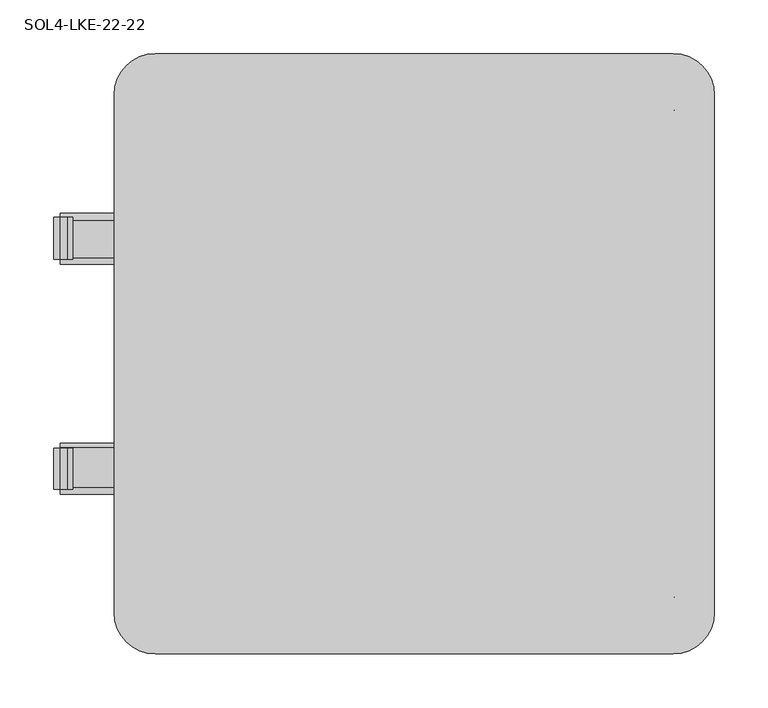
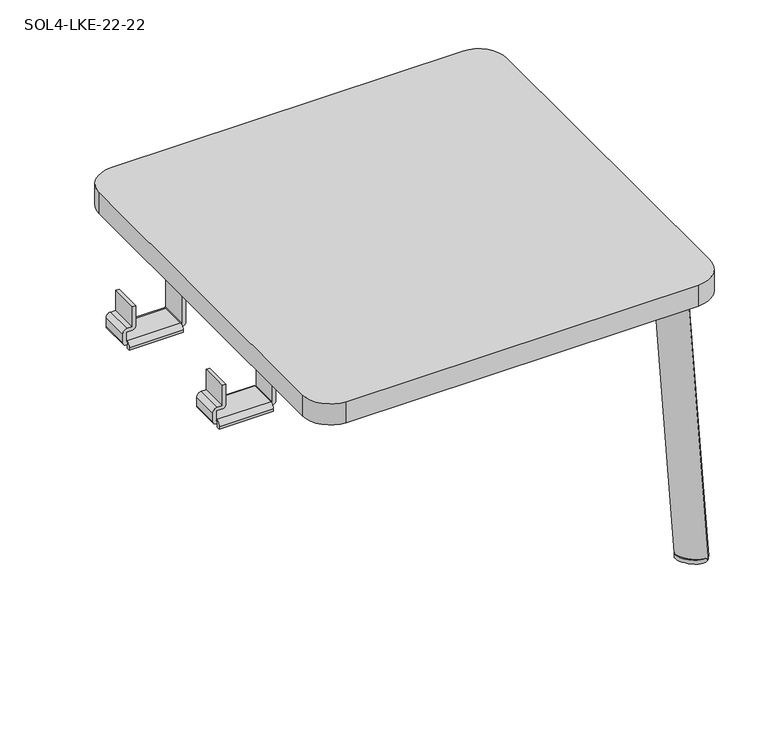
"""IFC4 building model written with IfcOpenShell, lengths in millimetres: furniture geometry, Krug-Solis-End_Table : SOL4-LKE-22-22."""

from ifc_helpers import new_model, si_unit, point, frame, frame_2d, origin, place, context, project, spatial, polyline, circle_curve, ellipse_curve, trimmed, segment, composite_curve, outline, extrude, source, transform, mapped, element, save
from ifc_brep_helpers import plane_surface, revolved_surface, extruded_surface, advanced_brep


def sol4_lke_22_22_c15cc27e(model_context):
    return source(origin(), model_context, "Body", "SolidModel", [
        advanced_brep(
        [(185.7392299, 386.8104911, 5.7275174), (214.9431985, 416.0144598, 5.7275174), (185.7392299, 386.8104911, 0.0), (214.9431985, 416.0144598, 0.0)],
        [
            (0, 1, ellipse_curve(frame((200.3412142, 401.4124754, 5.7275174), z_axis=(0.0, 0.0, 1.0000000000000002), x_axis=(0.7071067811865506, 0.7071067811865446, 0.0)), 20.6503243, 12.7)),
            (1, 0, ellipse_curve(frame((200.3412142, 401.4124754, 5.7275174), z_axis=(0.0, 0.0, 1.0000000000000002), x_axis=(0.7071067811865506, 0.7071067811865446, 0.0)), 20.6503243, 12.7)),
            (2, 3, ellipse_curve(frame((200.3412142, 401.4124754, 0.0), z_axis=(0.0, 0.0, -1.0000000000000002), x_axis=(0.7071067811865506, 0.7071067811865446, 0.0)), 20.6503243, 12.7)),
            (3, 2, ellipse_curve(frame((200.3412142, 401.4124754, 0.0), z_axis=(0.0, 0.0, -1.0000000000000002), x_axis=(0.7071067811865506, 0.7071067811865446, 0.0)), 20.6503243, 12.7)),
            (1, 3),
            (2, 0),
        ],
        [
            plane_surface(frame((214.9431985, 416.0144598, 5.7275174), z_axis=(0.0, 0.0, 1.0000000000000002), x_axis=(-0.7071067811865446, 0.7071067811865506, 0.0))),
            plane_surface(frame((214.9431985, 416.0144598, 0.0), z_axis=(0.0, 0.0, -1.0000000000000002), x_axis=(0.7071067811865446, -0.7071067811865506, 0.0))),
            extruded_surface(trimmed(ellipse_curve(frame((200.3412142, 401.4124754, -5.7275174), z_axis=(0.0, 0.0, 1.0000000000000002), x_axis=(0.7071067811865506, 0.7071067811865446, 0.0)), 20.6503243, 12.7), [point((214.9431985, 416.0144598, -5.7275174))], [point((185.7392299, 386.8104911, -5.7275174))], True, "CARTESIAN"), (0.0, 0.0, 5.7275174), 5.7275174),
            extruded_surface(trimmed(ellipse_curve(frame((200.3412142, 401.4124754, -5.7275174), z_axis=(0.0, 0.0, 1.0000000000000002), x_axis=(0.7071067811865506, 0.7071067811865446, 0.0)), 20.6503243, 12.7), [point((185.7392299, 386.8104911, -5.7275174))], [point((214.9431985, 416.0144598, -5.7275174))], True, "CARTESIAN"), (0.0, 0.0, 5.7275174), 5.7275174),
        ],
        [
            (0, [[1, 2]]),
            (1, [[3, 4]]),
            (2, [[-2, 5, -3, 6]]),
            (3, [[-1, -6, -4, -5]]),
        ],
    ),
        extrude(outline(composite_curve([segment(trimmed(circle_curve(frame_2d((152.3453876, 353.4166488)), 12.7), [point((152.3453876, 340.7166488))], [point((139.6453876, 353.4166488))], False, "CARTESIAN"), True, "CONTINUOUS"), segment(polyline([(139.6453876, 353.4166488), (139.6453876, 404.0166488)]), True, "CONTINUOUS"), segment(trimmed(circle_curve(frame_2d((152.3453876, 404.0166488)), 12.7), [point((139.6453876, 404.0166488))], [point((152.3453876, 416.7166488))], False, "CARTESIAN"), True, "CONTINUOUS"), segment(polyline([(152.3453876, 416.7166488), (190.2453876, 416.7166488)]), True, "CONTINUOUS"), segment(trimmed(circle_curve(frame_2d((190.2453876, 391.3166488)), 25.4), [point((190.2453876, 416.7166488))], [point((215.6453876, 391.3166488))], False, "CARTESIAN"), True, "CONTINUOUS"), segment(polyline([(215.6453876, 391.3166488), (215.6453876, 353.4166488)]), True, "CONTINUOUS"), segment(trimmed(circle_curve(frame_2d((202.9453876, 353.4166488)), 12.7), [point((215.6453876, 353.4166488))], [point((202.9453876, 340.7166488))], False, "CARTESIAN"), True, "CONTINUOUS"), segment(polyline([(202.9453876, 340.7166488), (152.3453876, 340.7166488)]), True, "CONTINUOUS")], self_intersect=False)), frame((0.0, 0.0, 381.9661838), z_axis=(0.0, 0.0, 1.0), x_axis=(1.0, 0.0, 0.0)), (0.0, 0.0, 1.0), 4.1138162),
        advanced_brep(
        [(197.2601224, 398.2991166, 388.9312757), (167.8869832, 368.9905115, 383.2287243), (215.4522467, 416.4912409, 4.7338329), (185.8034434, 386.9069717, 4.8530024)],
        [
            (0, 1, ellipse_curve(frame((182.5735528, 383.644814, 386.08), z_axis=(-0.09627270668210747, -0.09627270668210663, 0.9906882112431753), x_axis=(-0.701292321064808, -0.6997515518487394, -0.13615008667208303)), 20.9421508, 11.4593239)),
            (1, 0, ellipse_curve(frame((182.5735528, 383.644814, 386.08), z_axis=(-0.09627270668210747, -0.09627270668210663, 0.9906882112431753), x_axis=(-0.701292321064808, -0.6997515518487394, -0.13615008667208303)), 20.9421508, 11.4593239)),
            (2, 3, ellipse_curve(frame((200.6278451, 401.6991063, 4.7934177), z_axis=(-0.0020118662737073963, -0.0020118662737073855, -0.9999959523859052), x_axis=(-0.70787388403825, -0.7063331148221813, 0.002845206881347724)), 20.9421508, 11.4593239)),
            (3, 2, ellipse_curve(frame((200.6278451, 401.6991063, 4.7934177), z_axis=(-0.0020118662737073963, -0.0020118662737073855, -0.9999959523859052), x_axis=(-0.70787388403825, -0.7063331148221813, 0.002845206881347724)), 20.9421508, 11.4593239)),
            (2, 0, circle_curve(frame((-1739.0553432, -1538.016349, 12.5982806), z_axis=(0.7071067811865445, -0.7071067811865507, 0.0), x_axis=(0.7005223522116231, 0.700522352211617, 0.1361501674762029)), 2764.1023295)),
            (1, 3, circle_curve(frame((-1739.0876102, -1537.984082, 12.5982806), z_axis=(-0.7071067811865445, 0.7071067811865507, 0.0), x_axis=(0.7005223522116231, 0.700522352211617, 0.1361501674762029)), 2722.2180526)),
        ],
        [
            plane_surface(frame((182.5735528, 383.644814, 386.08), z_axis=(-0.09627270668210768, -0.09627270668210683, 0.9906882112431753), x_axis=(-0.7071067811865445, 0.7071067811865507, 0.0))),
            plane_surface(frame((200.6278451, 401.6991063, 4.7934177), z_axis=(-0.002011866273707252, -0.0020118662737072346, -0.9999959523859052), x_axis=(-0.7071067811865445, 0.7071067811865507, 0.0))),
            revolved_surface(trimmed(ellipse_curve(frame((182.5735528, 383.644814, 386.08), z_axis=(-0.09627270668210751, -0.09627270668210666, 0.9906882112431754), x_axis=(-0.701292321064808, -0.6997515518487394, -0.13615008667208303)), 20.9421508, 11.4593239), [point((167.8869832, 368.9905115, 383.2287243))], [point((197.2601224, 398.2991166, 388.9312757))], True, "CARTESIAN"), (-1739.0714767, -1538.0002155, 12.5982806), (-0.7071067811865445, 0.7071067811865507, 0.0)),
            revolved_surface(trimmed(ellipse_curve(frame((182.5735528, 383.644814, 386.08), z_axis=(-0.09627270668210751, -0.09627270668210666, 0.9906882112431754), x_axis=(-0.701292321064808, -0.6997515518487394, -0.13615008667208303)), 20.9421508, 11.4593239), [point((197.2601224, 398.2991166, 388.9312757))], [point((167.8869832, 368.9905115, 383.2287243))], True, "CARTESIAN"), (-1739.0714767, -1538.0002155, 12.5982806), (-0.7071067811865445, 0.7071067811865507, 0.0)),
        ],
        [
            (0, [[1, 2]]),
            (1, [[3, 4]]),
            (2, [[5, -2, 6, -3]]),
            (3, [[-6, -1, -5, -4]]),
        ],
    ),
        advanced_brep(
        [(185.7392299, -82.3771935, 5.7275174), (214.9431985, -111.5811621, 5.7275174), (185.7392299, -82.3771935, 0.0), (214.9431985, -111.5811621, 0.0)],
        [
            (0, 1, ellipse_curve(frame((200.3412142, -96.9791778, 5.7275174), z_axis=(0.0, 0.0, 1.0000000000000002), x_axis=(0.7071067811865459, -0.7071067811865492, 0.0)), 20.6503243, 12.7)),
            (1, 0, ellipse_curve(frame((200.3412142, -96.9791778, 5.7275174), z_axis=(0.0, 0.0, 1.0000000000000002), x_axis=(0.7071067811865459, -0.7071067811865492, 0.0)), 20.6503243, 12.7)),
            (2, 3, ellipse_curve(frame((200.3412142, -96.9791778, 0.0), z_axis=(0.0, 0.0, -1.0000000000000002), x_axis=(0.7071067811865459, -0.7071067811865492, 0.0)), 20.6503243, 12.7)),
            (3, 2, ellipse_curve(frame((200.3412142, -96.9791778, 0.0), z_axis=(0.0, 0.0, -1.0000000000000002), x_axis=(0.7071067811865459, -0.7071067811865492, 0.0)), 20.6503243, 12.7)),
            (0, 2),
            (3, 1),
        ],
        [
            plane_surface(frame((214.9431985, -111.5811621, 5.7275174), z_axis=(0.0, 0.0, 1.0000000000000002), x_axis=(0.7071067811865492, 0.7071067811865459, 0.0))),
            plane_surface(frame((214.9431985, -111.5811621, 0.0), z_axis=(0.0, 0.0, -1.0000000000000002), x_axis=(-0.7071067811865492, -0.7071067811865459, 0.0))),
            extruded_surface(trimmed(ellipse_curve(frame((200.3412142, -96.9791778, -5.7275174), z_axis=(0.0, 0.0, 1.0000000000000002), x_axis=(0.7071067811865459, -0.7071067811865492, 0.0)), 20.6503243, 12.7), [point((185.7392299, -82.3771935, -5.7275174))], [point((214.9431985, -111.5811621, -5.7275174))], True, "CARTESIAN"), (0.0, 0.0, 5.7275174), 5.7275174),
            extruded_surface(trimmed(ellipse_curve(frame((200.3412142, -96.9791778, -5.7275174), z_axis=(0.0, 0.0, 1.0000000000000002), x_axis=(0.7071067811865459, -0.7071067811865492, 0.0)), 20.6503243, 12.7), [point((214.9431985, -111.5811621, -5.7275174))], [point((185.7392299, -82.3771935, -5.7275174))], True, "CARTESIAN"), (0.0, 0.0, 5.7275174), 5.7275174),
        ],
        [
            (0, [[1, 2]]),
            (1, [[3, 4]]),
            (2, [[-1, 5, -4, 6]]),
            (3, [[-2, -6, -3, -5]]),
        ],
    ),
        extrude(outline(composite_curve([segment(polyline([(152.3453876, -36.2833512), (202.9453876, -36.2833512)]), True, "CONTINUOUS"), segment(trimmed(circle_curve(frame_2d((202.9453876, -48.9833512)), 12.7), [point((202.9453876, -36.2833512))], [point((215.6453876, -48.9833512))], False, "CARTESIAN"), True, "CONTINUOUS"), segment(polyline([(215.6453876, -48.9833512), (215.6453876, -86.8833512)]), True, "CONTINUOUS"), segment(trimmed(circle_curve(frame_2d((190.2453876, -86.8833512)), 25.4), [point((215.6453876, -86.8833512))], [point((190.2453876, -112.2833512))], False, "CARTESIAN"), True, "CONTINUOUS"), segment(polyline([(190.2453876, -112.2833512), (152.3453876, -112.2833512)]), True, "CONTINUOUS"), segment(trimmed(circle_curve(frame_2d((152.3453876, -99.5833512)), 12.7), [point((152.3453876, -112.2833512))], [point((139.6453876, -99.5833512))], False, "CARTESIAN"), True, "CONTINUOUS"), segment(polyline([(139.6453876, -99.5833512), (139.6453876, -48.9833512)]), True, "CONTINUOUS"), segment(trimmed(circle_curve(frame_2d((152.3453876, -48.9833512)), 12.7), [point((139.6453876, -48.9833512))], [point((152.3453876, -36.2833512))], False, "CARTESIAN"), True, "CONTINUOUS")], self_intersect=False)), frame((0.0, 0.0, 381.9661838), z_axis=(0.0, 0.0, 1.0), x_axis=(1.0, 0.0, 0.0)), (0.0, 0.0, 1.0), 4.1138162),
        advanced_brep(
        [(197.2601224, -93.865819, 388.9312757), (167.8869832, -64.5572139, 383.2287243), (215.4522467, -112.0579433, 4.7338329), (185.8034434, -82.473674, 4.8530024)],
        [
            (0, 1, ellipse_curve(frame((182.5735528, -79.2115164, 386.08), z_axis=(-0.0962727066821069, 0.09627270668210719, 0.9906882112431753), x_axis=(-0.7012923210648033, 0.699751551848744, -0.13615008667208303)), 20.9421508, 11.4593239)),
            (1, 0, ellipse_curve(frame((182.5735528, -79.2115164, 386.08), z_axis=(-0.0962727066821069, 0.09627270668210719, 0.9906882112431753), x_axis=(-0.7012923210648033, 0.699751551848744, -0.13615008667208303)), 20.9421508, 11.4593239)),
            (2, 3, ellipse_curve(frame((200.6278451, -97.2658087, 4.7934177), z_axis=(-0.0020118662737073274, 0.002011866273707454, -0.9999959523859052), x_axis=(-0.7078738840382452, 0.7063331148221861, 0.002845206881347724)), 20.9421508, 11.4593239)),
            (3, 2, ellipse_curve(frame((200.6278451, -97.2658087, 4.7934177), z_axis=(-0.0020118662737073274, 0.002011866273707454, -0.9999959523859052), x_axis=(-0.7078738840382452, 0.7063331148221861, 0.002845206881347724)), 20.9421508, 11.4593239)),
            (3, 1, circle_curve(frame((-1739.0876102, 1842.4173796, 12.5982806), z_axis=(-0.7071067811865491, -0.707106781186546, 0.0), x_axis=(0.7005223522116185, -0.7005223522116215, 0.1361501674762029)), 2722.2180526)),
            (0, 2, circle_curve(frame((-1739.0553432, 1842.4496466, 12.5982806), z_axis=(0.7071067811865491, 0.707106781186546, 0.0), x_axis=(0.7005223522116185, -0.7005223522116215, 0.1361501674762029)), 2764.1023295)),
        ],
        [
            plane_surface(frame((182.5735528, -79.2115164, 386.08), z_axis=(-0.09627270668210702, 0.09627270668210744, 0.9906882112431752), x_axis=(-0.7071067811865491, -0.707106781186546, 0.0))),
            plane_surface(frame((200.6278451, -97.2658087, 4.7934177), z_axis=(-0.0020118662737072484, 0.0020118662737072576, -0.9999959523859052), x_axis=(-0.7071067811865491, -0.707106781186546, 0.0))),
            revolved_surface(trimmed(ellipse_curve(frame((182.5735528, -79.2115164, 386.08), z_axis=(-0.09627270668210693, 0.09627270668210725, 0.9906882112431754), x_axis=(-0.7012923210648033, 0.699751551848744, -0.13615008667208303)), 20.9421508, 11.4593239), [point((197.2601224, -93.865819, 388.9312757))], [point((167.8869832, -64.5572139, 383.2287243))], True, "CARTESIAN"), (-1739.0714767, 1842.4335131, 12.5982806), (0.7071067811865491, 0.707106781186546, 0.0)),
            revolved_surface(trimmed(ellipse_curve(frame((182.5735528, -79.2115164, 386.08), z_axis=(-0.09627270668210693, 0.09627270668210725, 0.9906882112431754), x_axis=(-0.7012923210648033, 0.699751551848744, -0.13615008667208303)), 20.9421508, 11.4593239), [point((167.8869832, -64.5572139, 383.2287243))], [point((197.2601224, -93.865819, 388.9312757))], True, "CARTESIAN"), (-1739.0714767, 1842.4335131, 12.5982806), (0.7071067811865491, 0.707106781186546, 0.0)),
        ],
        [
            (0, [[1, 2]]),
            (1, [[3, 4]]),
            (2, [[5, -1, 6, -4]]),
            (3, [[-6, -2, -5, -3]]),
        ],
    ),
        extrude(outline(composite_curve([segment(trimmed(circle_curve(frame_2d((-290.2546124, 393.6166488)), 38.1), [point((-328.3546124, 393.6166488))], [point((-290.2546124, 431.7166488))], False, "CARTESIAN"), True, "CONTINUOUS"), segment(polyline([(-290.2546124, 431.7166488), (192.5453876, 431.7166488)]), True, "CONTINUOUS"), segment(trimmed(circle_curve(frame_2d((192.5453876, 393.6166488)), 38.1), [point((192.5453876, 431.7166488))], [point((230.6453876, 393.6166488))], False, "CARTESIAN"), True, "CONTINUOUS"), segment(polyline([(230.6453876, 393.6166488), (230.6453876, -89.1833512)]), True, "CONTINUOUS"), segment(trimmed(circle_curve(frame_2d((192.5453876, -89.1833512)), 38.1), [point((230.6453876, -89.1833512))], [point((192.5453876, -127.2833512))], False, "CARTESIAN"), True, "CONTINUOUS"), segment(polyline([(192.5453876, -127.2833512), (-290.2546124, -127.2833512)]), True, "CONTINUOUS"), segment(trimmed(circle_curve(frame_2d((-290.2546124, -89.1833512)), 38.1), [point((-290.2546124, -127.2833512))], [point((-328.3546124, -89.1833512))], False, "CARTESIAN"), True, "CONTINUOUS"), segment(polyline([(-328.3546124, -89.1833512), (-328.3546124, 393.6166488)]), True, "CONTINUOUS")], self_intersect=False)), frame((0.0, 0.0, 386.08), z_axis=(0.0, 0.0, 1.0), x_axis=(1.0, 0.0, 0.0)), (0.0, 0.0, 1.0), 30.48),
        extrude(outline(composite_curve([segment(polyline([(330.5710981, -371.6990738), (330.5710981, -378.4365929)]), True, "CONTINUOUS"), segment(trimmed(circle_curve(frame_2d((324.308617, -378.4365929)), 6.2624811), [point((330.5710981, -378.4365929))], [point((324.308617, -384.699074))], False, "CARTESIAN"), True, "CONTINUOUS"), segment(polyline([(324.308617, -384.699074), (311.9831705, -384.699074)]), True, "CONTINUOUS"), segment(trimmed(circle_curve(frame_2d((311.9831705, -379.9365737)), 4.7625003), [point((311.9831705, -384.699074))], [point((307.2206702, -379.9365737))], False, "CARTESIAN"), True, "CONTINUOUS"), segment(polyline([(307.2206702, -379.9365737), (307.2206702, -378.4365746), (311.8086169, -378.4365746), (311.8086169, -379.9365737), (325.8085981, -379.9365737), (325.8085981, -371.6990738)]), True, "CONTINUOUS"), segment(trimmed(circle_curve(frame_2d((330.5710984, -371.6990738)), 4.7625003), [point((325.8085981, -371.6990738))], [point((330.5710984, -366.9365734))], False, "CARTESIAN"), True, "CONTINUOUS"), segment(polyline([(330.5710984, -366.9365734), (359.808594, -366.9365734), (359.808594, -371.6990738), (330.5710981, -371.6990738)]), True, "CONTINUOUS")], self_intersect=False)), frame((0.0, 240.1666539, 0.0), z_axis=(0.0, 1.0, 0.0), x_axis=(0.0, 0.0, 1.0)), (0.0, 0.0, 1.0), 39.3474212),
        extrude(outline(composite_curve([segment(polyline([(311.9831625, -298.1740821), (381.9661838, -298.1740821), (381.9661838, -259.3540732), (386.08, -259.3540732), (386.08, -302.9365744), (311.8086169, -302.9365744), (311.8086169, -304.4365732), (307.2206702, -304.4365732), (307.2206702, -302.9365744)]), True, "CONTINUOUS"), segment(trimmed(circle_curve(frame_2d((311.9831625, -302.9365744)), 4.7624923), [point((307.2206702, -302.9365744))], [point((311.9831625, -298.1740821))], False, "CARTESIAN"), True, "CONTINUOUS")], self_intersect=False)), frame((0.0, 240.1666539, 0.0), z_axis=(0.0, 1.0, 0.0), x_axis=(0.0, 0.0, 1.0)), (0.0, 0.0, 1.0), 39.3474212),
        extrude(outline(composite_curve([segment(polyline([(26.1666492, 322.8298588), (26.1666492, 317.4177981), (21.4041494, 317.4177981), (21.4041494, 321.0678055)]), True, "CONTINUOUS"), segment(trimmed(circle_curve(frame_2d((27.7541494, 321.0678055)), 6.35), [point((21.4041494, 321.0678055))], [point((27.7541494, 327.4178055))], False, "CARTESIAN"), True, "CONTINUOUS"), segment(polyline([(27.7541494, 327.4178055), (65.196213, 327.4178055)]), True, "CONTINUOUS"), segment(trimmed(circle_curve(frame_2d((65.196213, 323.5848692)), 3.8329363), [point((65.196213, 327.4178055))], [point((69.0291494, 323.5848692))], False, "CARTESIAN"), True, "CONTINUOUS"), segment(polyline([(69.0291494, 323.5848692), (69.0291494, 317.4177981), (64.2666487, 317.4177981), (64.2666487, 322.8298588), (26.1666492, 322.8298588)]), True, "CONTINUOUS")], self_intersect=False)), frame((-378.4365746, 0.0, 0.0), z_axis=(1.0, 0.0, 0.0), x_axis=(0.0, 1.0, 0.0)), (0.0, 0.0, 1.0), 74.0000014),
        extrude(outline(composite_curve([segment(polyline([(240.1666542, 307.2206702), (240.1666542, 301.8086095), (235.4041544, 301.8086095), (235.4041544, 305.4586169)]), True, "CONTINUOUS"), segment(trimmed(circle_curve(frame_2d((241.7541544, 305.4586169)), 6.35), [point((235.4041544, 305.4586169))], [point((241.7541544, 311.8086169))], False, "CARTESIAN"), True, "CONTINUOUS"), segment(polyline([(241.7541544, 311.8086169), (276.6791544, 311.8086169)]), True, "CONTINUOUS"), segment(trimmed(circle_curve(frame_2d((276.6791544, 305.4586169)), 6.35), [point((276.6791544, 311.8086169))], [point((283.0291544, 305.4586169))], False, "CARTESIAN"), True, "CONTINUOUS"), segment(polyline([(283.0291544, 305.4586169), (283.0291544, 301.8086095), (278.2666538, 301.8086095), (278.2666538, 307.2206702), (240.1666542, 307.2206702)]), True, "CONTINUOUS")], self_intersect=False)), frame((-378.4365746, 0.0, 0.0), z_axis=(1.0, 0.0, 0.0), x_axis=(0.0, 1.0, 0.0)), (0.0, 0.0, 1.0), 74.0000014),
        extrude(outline(composite_curve([segment(polyline([(346.1802867, -371.6990738), (346.1802867, -378.4365929)]), True, "CONTINUOUS"), segment(trimmed(circle_curve(frame_2d((339.9178056, -378.4365929)), 6.2624811), [point((346.1802867, -378.4365929))], [point((339.9178056, -384.699074))], False, "CARTESIAN"), True, "CONTINUOUS"), segment(polyline([(339.9178056, -384.699074), (327.5923591, -384.699074)]), True, "CONTINUOUS"), segment(trimmed(circle_curve(frame_2d((327.5923591, -379.9365737)), 4.7625003), [point((327.5923591, -384.699074))], [point((322.8298588, -379.9365737))], False, "CARTESIAN"), True, "CONTINUOUS"), segment(polyline([(322.8298588, -379.9365737), (322.8298588, -378.4365746), (327.4178055, -378.4365746), (327.4178055, -379.9365737), (341.4177867, -379.9365737), (341.4177867, -371.6990738)]), True, "CONTINUOUS"), segment(trimmed(circle_curve(frame_2d((346.180287, -371.6990738)), 4.7625003), [point((341.4177867, -371.6990738))], [point((346.180287, -366.9365734))], False, "CARTESIAN"), True, "CONTINUOUS"), segment(polyline([(346.180287, -366.9365734), (375.4177826, -366.9365734), (375.4177826, -371.6990738), (346.1802867, -371.6990738)]), True, "CONTINUOUS")], self_intersect=False)), frame((0.0, 26.1666489, 0.0), z_axis=(0.0, 1.0, 0.0), x_axis=(0.0, 0.0, 1.0)), (0.0, 0.0, 1.0), 38.0999998),
        extrude(outline(composite_curve([segment(polyline([(327.5923511, -298.1740821), (381.9661838, -298.1740821), (381.9661838, -259.3540732), (386.08, -259.3540732), (386.08, -302.9365744), (327.4178055, -302.9365744), (327.4178055, -304.4365732), (322.8298588, -304.4365732), (322.8298588, -302.9365744)]), True, "CONTINUOUS"), segment(trimmed(circle_curve(frame_2d((327.5923511, -302.9365744)), 4.7624923), [point((322.8298588, -302.9365744))], [point((327.5923511, -298.1740821))], False, "CARTESIAN"), True, "CONTINUOUS")], self_intersect=False)), frame((0.0, 26.1666489, 0.0), z_axis=(0.0, 1.0, 0.0), x_axis=(0.0, 0.0, 1.0)), (0.0, 0.0, 1.0), 38.0999998),
    ])


if __name__ == "__main__":
    model = new_model("IFC4")
    model_context = context("Model", 3, world=origin())
    ifc_project = project(units=[si_unit("LENGTHUNIT", "METRE", prefix="MILLI")], contexts=[model_context])
    site = spatial("IfcSite", under=ifc_project)
    building = spatial("IfcBuilding", under=site)
    placement = place(None, origin())
    sol4_lke_22_22_shape = sol4_lke_22_22_c15cc27e(model_context)
    element("IfcFurniture", 1, ObjectType="Krug-Solis-End_Table : SOL4-LKE-22-22", at=placement, inside=building, context=model_context, shape_type="MappedRepresentation", body=[
        mapped(sol4_lke_22_22_shape, transform((0.0, 0.0, 0.0), x_axis=(1.0, 0.0, 0.0), y_axis=(0.0, 1.0, 0.0), z_axis=(0.0, 0.0, 1.0))),
    ])
    save(model, "model.ifc")
